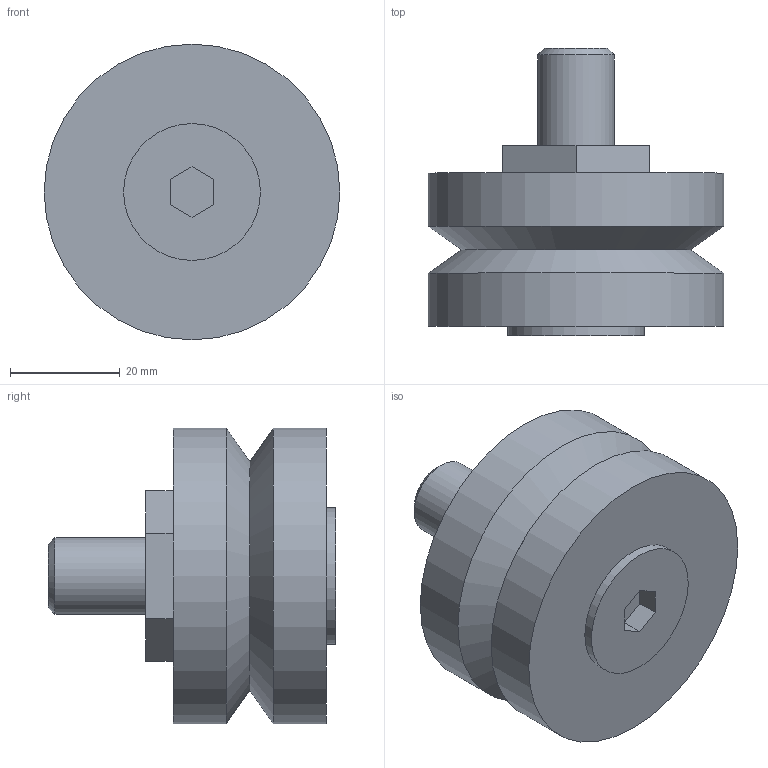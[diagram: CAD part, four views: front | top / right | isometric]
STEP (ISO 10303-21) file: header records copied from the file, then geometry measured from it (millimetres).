
FILE_DESCRIPTION( ( 'STEP AP203' ), '1' );
FILE_NAME( 'p:/temp/worker_333/temp/exporttempdir_3604_113_QInLc/format_0/RBHJ54C.stp', '2022-06-02T04:31:53', ( 'License CC BY-ND 4.0' ), ( 'CADENAS' ), ' ', 'PARTsolutions', ' ' );
FILE_SCHEMA( ( 'CONFIG_CONTROL_DESIGN' ) );
Length unit declared in the file: millimetre
Products named in the file (1): _RBHJ54C
Bounding box: 54 x 52.5 x 54 mm (x, y, z)
Volume: 66491.6 mm3; surface area: 11585.5 mm2
Topology: 1 solids, 1 shells, 25 faces, 54 edges, 35 vertices
Faces by surface type: plane 18, cylinder 4, cone 3
Full cylindrical faces by diameter (mm): 14 x1, 25 x1, 54 x2
Entity records: 674 total; most frequent: DIRECTION 108, CARTESIAN_POINT 106, ORIENTED_EDGE 92, EDGE_CURVE 46, AXIS2_PLACEMENT_3D 36, EDGE_LOOP 36, LINE 36, VECTOR 36
